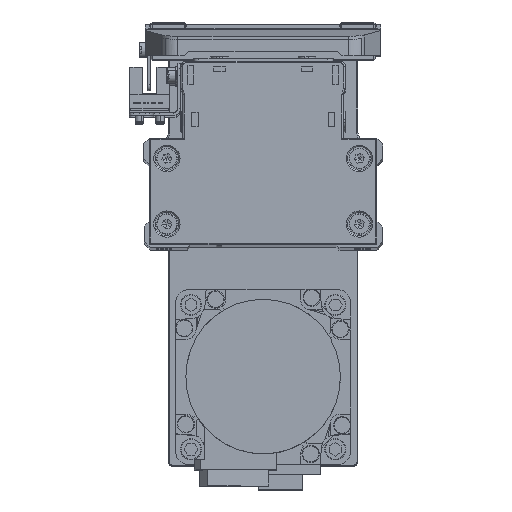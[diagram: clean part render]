
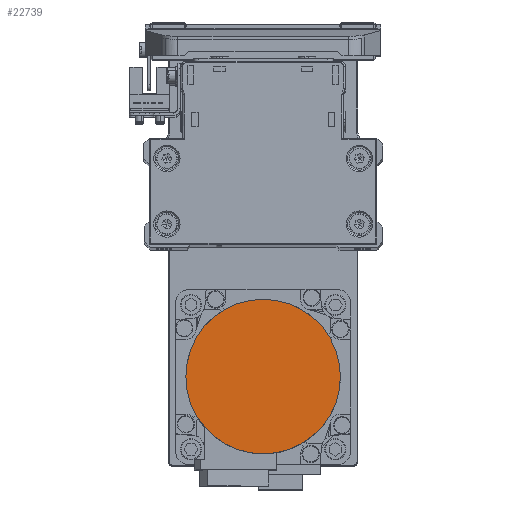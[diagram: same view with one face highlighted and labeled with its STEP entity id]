
A CAD part, top view. The second image highlights one B-rep face of the part: STEP entity #22739.
In plain terms, the highlighted planar face has unit normal (0, 0, 1) as drawn and (0, 0, -1) by its records, which use the part's own axes.
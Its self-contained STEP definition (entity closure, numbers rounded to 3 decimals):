
#1183 = ORIENTED_EDGE ( 'NONE', *, *, #26306, .F. ) ;
#2622 = ORIENTED_EDGE ( 'NONE', *, *, #24983, .F. ) ;
#5202 = DIRECTION ( 'NONE',  ( 1., 0., 0. ) ) ;
#7055 = DIRECTION ( 'NONE',  ( -1., 0., 0. ) ) ;
#7490 = EDGE_LOOP ( 'NONE', ( #2622, #1183 ) ) ;
#8290 = PLANE ( 'NONE',  #39036 ) ;
#11096 = CIRCLE ( 'NONE', #34077, 26.5 ) ;
#14284 = AXIS2_PLACEMENT_3D ( 'NONE', #22688, #35234, #7055 ) ;
#15560 = CARTESIAN_POINT ( 'NONE',  ( 0., 0., -109.7 ) ) ;
#20834 = CARTESIAN_POINT ( 'NONE',  ( 0., 0., -109.7 ) ) ;
#21676 = VERTEX_POINT ( 'NONE', #38260 ) ;
#22688 = CARTESIAN_POINT ( 'NONE',  ( 0., 0., -109.7 ) ) ;
#22739 = ADVANCED_FACE ( 'NONE', ( #36476 ), #8290, .F. ) ;
#24983 = EDGE_CURVE ( 'NONE', #35162, #21676, #32019, .T. ) ;
#26306 = EDGE_CURVE ( 'NONE', #21676, #35162, #11096, .T. ) ;
#28115 = DIRECTION ( 'NONE',  ( 0., 0., 1. ) ) ;
#32019 = CIRCLE ( 'NONE', #14284, 26.5 ) ;
#33378 = DIRECTION ( 'NONE',  ( 0., 0., 1. ) ) ;
#34077 = AXIS2_PLACEMENT_3D ( 'NONE', #15560, #28115, #40708 ) ;
#35162 = VERTEX_POINT ( 'NONE', #38878 ) ;
#35234 = DIRECTION ( 'NONE',  ( 0., 0., 1. ) ) ;
#36476 = FACE_OUTER_BOUND ( 'NONE', #7490, .T. ) ;
#38260 = CARTESIAN_POINT ( 'NONE',  ( 26.5, 0., -109.7 ) ) ;
#38878 = CARTESIAN_POINT ( 'NONE',  ( -26.5, 0., -109.7 ) ) ;
#39036 = AXIS2_PLACEMENT_3D ( 'NONE', #20834, #33378, #5202 ) ;
#40708 = DIRECTION ( 'NONE',  ( 1., 0., 0. ) ) ;
